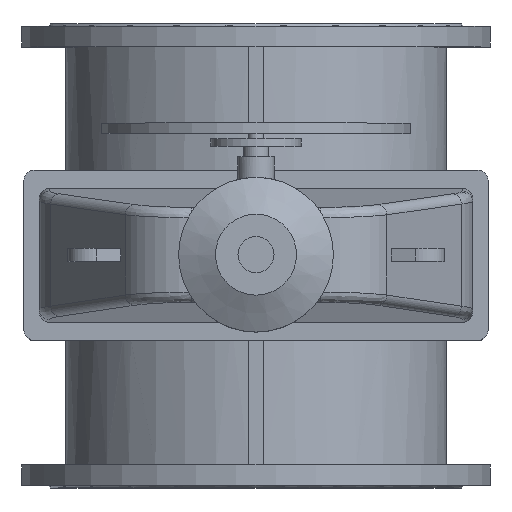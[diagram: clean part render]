
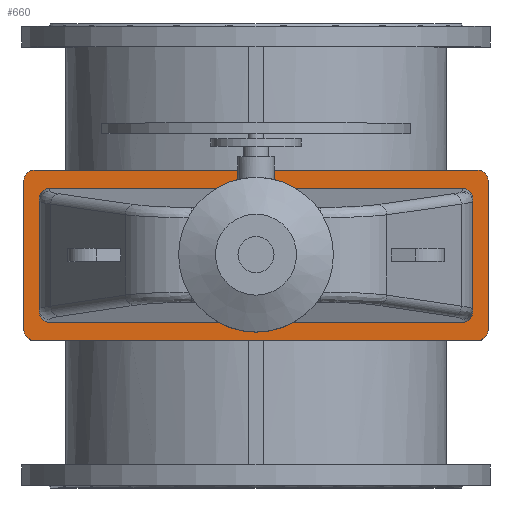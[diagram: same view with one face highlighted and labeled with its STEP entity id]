
A CAD part, top view. The second image highlights one B-rep face of the part: STEP entity #660.
In plain terms, the highlighted planar face has unit normal (0, 0, 1).
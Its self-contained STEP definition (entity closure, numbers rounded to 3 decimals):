
#660=ADVANCED_FACE('',(#4245,#4247),#4249,.T.);
#4245=FACE_BOUND('',#4246,.T.);
#4246=EDGE_LOOP('',(#9037,#9038,#9039,#9040,#9041,#9042,#9043,#9044));
#4247=FACE_BOUND('',#4248,.T.);
#4248=EDGE_LOOP('',(#9045,#9046,#9047,#9048,#9049,#9050,#9051,#9052));
#4249=PLANE('',#4250);
#4250=AXIS2_PLACEMENT_3D('',#4251,#4252,#4253);
#4251=CARTESIAN_POINT('',(0.,0.,816.));
#4252=DIRECTION('',(0.,-0.,1.));
#4253=DIRECTION('',(0.,1.,0.));
#9037=ORIENTED_EDGE('',*,*,#10806,.F.);
#9038=ORIENTED_EDGE('',*,*,#10807,.T.);
#9039=ORIENTED_EDGE('',*,*,#10808,.F.);
#9040=ORIENTED_EDGE('',*,*,#10809,.T.);
#9041=ORIENTED_EDGE('',*,*,#10810,.F.);
#9042=ORIENTED_EDGE('',*,*,#10811,.T.);
#9043=ORIENTED_EDGE('',*,*,#10812,.F.);
#9044=ORIENTED_EDGE('',*,*,#10813,.T.);
#9045=ORIENTED_EDGE('',*,*,#10796,.F.);
#9046=ORIENTED_EDGE('',*,*,#10767,.F.);
#9047=ORIENTED_EDGE('',*,*,#10805,.F.);
#9048=ORIENTED_EDGE('',*,*,#10814,.F.);
#9049=ORIENTED_EDGE('',*,*,#10815,.F.);
#9050=ORIENTED_EDGE('',*,*,#10780,.F.);
#9051=ORIENTED_EDGE('',*,*,#10816,.F.);
#9052=ORIENTED_EDGE('',*,*,#10817,.F.);
#10767=EDGE_CURVE('',#11761,#11747,#11763,.T.);
#10780=EDGE_CURVE('',#11782,#11785,#11786,.T.);
#10796=EDGE_CURVE('',#11747,#11813,#11814,.F.);
#10805=EDGE_CURVE('',#11824,#11761,#11826,.T.);
#10806=EDGE_CURVE('',#11827,#11828,#11829,.F.);
#10807=EDGE_CURVE('',#11827,#11830,#11831,.T.);
#10808=EDGE_CURVE('',#11832,#11830,#11833,.F.);
#10809=EDGE_CURVE('',#11832,#11834,#11835,.T.);
#10810=EDGE_CURVE('',#11836,#11834,#11837,.F.);
#10811=EDGE_CURVE('',#11836,#11838,#11839,.T.);
#10812=EDGE_CURVE('',#11840,#11838,#11841,.F.);
#10813=EDGE_CURVE('',#11840,#11828,#11842,.T.);
#10814=EDGE_CURVE('',#11843,#11824,#11844,.T.);
#10815=EDGE_CURVE('',#11785,#11843,#11845,.F.);
#10816=EDGE_CURVE('',#11846,#11782,#11847,.T.);
#10817=EDGE_CURVE('',#11813,#11846,#11848,.T.);
#11747=VERTEX_POINT('',#13684);
#11761=VERTEX_POINT('',#13716);
#11763=LINE('',#13720,#13721);
#11782=VERTEX_POINT('',#13767);
#11785=VERTEX_POINT('',#13772);
#11786=LINE('',#13773,#13774);
#11813=VERTEX_POINT('',#13837);
#11814=(BOUNDED_CURVE()B_SPLINE_CURVE(3,
(#13838,#13839,#13840,#13841),
.UNSPECIFIED.,.F.,.F.)B_SPLINE_CURVE_WITH_KNOTS((4,4),
(0.,1.),
.UNSPECIFIED.)CURVE()GEOMETRIC_REPRESENTATION_ITEM()RATIONAL_B_SPLINE_CURVE((1.,
0.805,0.805,1.))REPRESENTATION_ITEM(''));
#11824=VERTEX_POINT('',#13871);
#11826=(BOUNDED_CURVE()B_SPLINE_CURVE(3,
(#13875,#13876,#13877,#13878),
.UNSPECIFIED.,.F.,.F.)B_SPLINE_CURVE_WITH_KNOTS((4,4),
(0.,1.),
.UNSPECIFIED.)CURVE()GEOMETRIC_REPRESENTATION_ITEM()RATIONAL_B_SPLINE_CURVE((1.,
0.805,0.805,1.))REPRESENTATION_ITEM(''));
#11827=VERTEX_POINT('',#13879);
#11828=VERTEX_POINT('',#13880);
#11829=CIRCLE('',#13881,20.);
#11830=VERTEX_POINT('',#13885);
#11831=LINE('',#13886,#13887);
#11832=VERTEX_POINT('',#13889);
#11833=CIRCLE('',#13890,20.);
#11834=VERTEX_POINT('',#13894);
#11835=LINE('',#13895,#13896);
#11836=VERTEX_POINT('',#13898);
#11837=CIRCLE('',#13899,20.);
#11838=VERTEX_POINT('',#13903);
#11839=LINE('',#13904,#13905);
#11840=VERTEX_POINT('',#13907);
#11841=CIRCLE('',#13908,20.);
#11842=LINE('',#13912,#13913);
#11843=VERTEX_POINT('',#13915);
#11844=LINE('',#13916,#13917);
#11845=(BOUNDED_CURVE()B_SPLINE_CURVE(3,
(#13919,#13920,#13921,#13922),
.UNSPECIFIED.,.F.,.F.)B_SPLINE_CURVE_WITH_KNOTS((4,4),
(0.,1.),
.UNSPECIFIED.)CURVE()GEOMETRIC_REPRESENTATION_ITEM()RATIONAL_B_SPLINE_CURVE((1.,
0.805,0.805,1.))REPRESENTATION_ITEM(''));
#11846=VERTEX_POINT('',#13923);
#11847=(BOUNDED_CURVE()B_SPLINE_CURVE(3,
(#13924,#13925,#13926,#13927),
.UNSPECIFIED.,.F.,.F.)B_SPLINE_CURVE_WITH_KNOTS((4,4),
(0.,1.),
.UNSPECIFIED.)CURVE()GEOMETRIC_REPRESENTATION_ITEM()RATIONAL_B_SPLINE_CURVE((1.,
0.805,0.805,1.))REPRESENTATION_ITEM(''));
#11848=LINE('',#13928,#13929);
#13684=CARTESIAN_POINT('',(400.,-130.,816.));
#13716=CARTESIAN_POINT('',(-400.,-130.,816.));
#13720=CARTESIAN_POINT('',(-400.,-130.,816.));
#13721=VECTOR('',#13722,1.);
#13722=DIRECTION('',(1.,0.,0.));
#13767=CARTESIAN_POINT('',(400.,130.,816.));
#13772=CARTESIAN_POINT('',(-400.,130.,816.));
#13773=CARTESIAN_POINT('',(400.,130.,816.));
#13774=VECTOR('',#13775,1.);
#13775=DIRECTION('',(-1.,0.,0.));
#13837=CARTESIAN_POINT('',(420.,-109.924,816.));
#13838=CARTESIAN_POINT('',(420.,-109.924,816.));
#13839=CARTESIAN_POINT('',(420.,-121.684,816.));
#13840=CARTESIAN_POINT('',(411.716,-130.,816.));
#13841=CARTESIAN_POINT('',(400.,-130.,816.));
#13871=CARTESIAN_POINT('',(-420.,-109.924,816.));
#13875=CARTESIAN_POINT('',(-420.,-109.924,816.));
#13876=CARTESIAN_POINT('',(-420.,-121.684,816.));
#13877=CARTESIAN_POINT('',(-411.716,-130.,816.));
#13878=CARTESIAN_POINT('',(-400.,-130.,816.));
#13879=CARTESIAN_POINT('',(-430.,-165.,816.));
#13880=CARTESIAN_POINT('',(-450.,-145.,816.));
#13881=AXIS2_PLACEMENT_3D('',#13882,#13883,#13884);
#13882=CARTESIAN_POINT('',(-430.,-145.,816.));
#13883=DIRECTION('',(0.,-0.,1.));
#13884=DIRECTION('',(-1.,0.,0.));
#13885=CARTESIAN_POINT('',(430.,-165.,816.));
#13886=CARTESIAN_POINT('',(-430.,-165.,816.));
#13887=VECTOR('',#13888,1.);
#13888=DIRECTION('',(1.,0.,0.));
#13889=CARTESIAN_POINT('',(450.,-145.,816.));
#13890=AXIS2_PLACEMENT_3D('',#13891,#13892,#13893);
#13891=CARTESIAN_POINT('',(430.,-145.,816.));
#13892=DIRECTION('',(0.,-0.,1.));
#13893=DIRECTION('',(0.,-1.,0.));
#13894=CARTESIAN_POINT('',(450.,145.,816.));
#13895=CARTESIAN_POINT('',(450.,-145.,816.));
#13896=VECTOR('',#13897,1.);
#13897=DIRECTION('',(0.,1.,0.));
#13898=CARTESIAN_POINT('',(430.,165.,816.));
#13899=AXIS2_PLACEMENT_3D('',#13900,#13901,#13902);
#13900=CARTESIAN_POINT('',(430.,145.,816.));
#13901=DIRECTION('',(0.,-0.,1.));
#13902=DIRECTION('',(1.,0.,0.));
#13903=CARTESIAN_POINT('',(-430.,165.,816.));
#13904=CARTESIAN_POINT('',(430.,165.,816.));
#13905=VECTOR('',#13906,1.);
#13906=DIRECTION('',(-1.,0.,0.));
#13907=CARTESIAN_POINT('',(-450.,145.,816.));
#13908=AXIS2_PLACEMENT_3D('',#13909,#13910,#13911);
#13909=CARTESIAN_POINT('',(-430.,145.,816.));
#13910=DIRECTION('',(0.,-0.,1.));
#13911=DIRECTION('',(0.,1.,0.));
#13912=CARTESIAN_POINT('',(-450.,145.,816.));
#13913=VECTOR('',#13914,1.);
#13914=DIRECTION('',(0.,-1.,0.));
#13915=CARTESIAN_POINT('',(-420.,109.924,816.));
#13916=CARTESIAN_POINT('',(-420.,109.924,816.));
#13917=VECTOR('',#13918,1.);
#13918=DIRECTION('',(0.,-1.,0.));
#13919=CARTESIAN_POINT('',(-420.,109.924,816.));
#13920=CARTESIAN_POINT('',(-420.,121.684,816.));
#13921=CARTESIAN_POINT('',(-411.716,130.,816.));
#13922=CARTESIAN_POINT('',(-400.,130.,816.));
#13923=CARTESIAN_POINT('',(420.,109.924,816.));
#13924=CARTESIAN_POINT('',(420.,109.924,816.));
#13925=CARTESIAN_POINT('',(420.,121.684,816.));
#13926=CARTESIAN_POINT('',(411.716,130.,816.));
#13927=CARTESIAN_POINT('',(400.,130.,816.));
#13928=CARTESIAN_POINT('',(420.,-109.924,816.));
#13929=VECTOR('',#13930,1.);
#13930=DIRECTION('',(0.,1.,0.));
